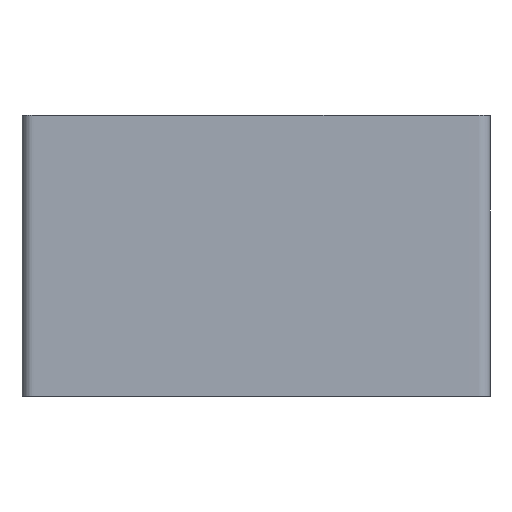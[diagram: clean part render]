
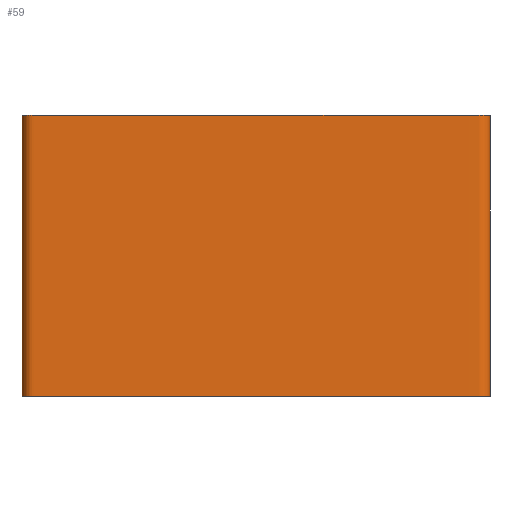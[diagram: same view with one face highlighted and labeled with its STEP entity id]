
A CAD part, top view. The second image highlights one B-rep face of the part: STEP entity #59.
In plain terms, the highlighted free-form (B-spline) face has degree [1, 2] with [2, 11] control points.
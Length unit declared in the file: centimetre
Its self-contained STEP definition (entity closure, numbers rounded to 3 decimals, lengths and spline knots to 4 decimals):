
#11=(
BOUNDED_SURFACE()
B_SPLINE_SURFACE(1,2,((#1027,#1028,#1029,#1030,#1031,#1032,#1033,#1034,#1035,
#1036,#1037),(#1038,#1039,#1040,#1041,#1042,#1043,#1044,#1045,#1046,#1047,
#1048)),.UNSPECIFIED.,.F.,.F.,.F.)
B_SPLINE_SURFACE_WITH_KNOTS((2,2),(3,2,2,2,2,3),(0.,60.),(-322.5664,
-293.0664,-289.1394,-194.1394,-190.2124,
-160.7124),.UNSPECIFIED.)
GEOMETRIC_REPRESENTATION_ITEM()
RATIONAL_B_SPLINE_SURFACE(((1.,1.,1.,0.707,1.,1.,1.,0.707,
1.,1.,1.),(1.,1.,1.,0.707,1.,1.,1.,0.707,1.,1.,1.)))
REPRESENTATION_ITEM($)
SURFACE()
);
#13=(
BOUNDED_CURVE()
B_SPLINE_CURVE(2,(#972,#973,#974,#975,#976,#977,#978,#979,#980,#981,#982),
.UNSPECIFIED.,.F.,.F.)
B_SPLINE_CURVE_WITH_KNOTS((3,2,2,2,2,3),(160.7124,190.2124,
194.1394,289.1394,293.0664,322.5664),.UNSPECIFIED.)
CURVE()
GEOMETRIC_REPRESENTATION_ITEM()
RATIONAL_B_SPLINE_CURVE((1.,1.,1.,0.707,1.,1.,1.,0.707,
1.,1.,1.))
REPRESENTATION_ITEM($)
);
#15=(
BOUNDED_CURVE()
B_SPLINE_CURVE(2,(#996,#997,#998,#999,#1000,#1001,#1002,#1003,#1004,#1005,
#1006),.UNSPECIFIED.,.F.,.F.)
B_SPLINE_CURVE_WITH_KNOTS((3,2,2,2,2,3),(160.7124,190.2124,
194.1394,289.1394,293.0664,322.5664),.UNSPECIFIED.)
CURVE()
GEOMETRIC_REPRESENTATION_ITEM()
RATIONAL_B_SPLINE_CURVE((1.,1.,1.,0.707,1.,1.,1.,0.707,
1.,1.,1.))
REPRESENTATION_ITEM($)
);
#59=ADVANCED_FACE($,(#99),#11,.T.);
#99=FACE_OUTER_BOUND($,#139,.T.);
#139=EDGE_LOOP($,(#274,#275,#276,#277));
#274=ORIENTED_EDGE($,*,*,#381,.T.);
#275=ORIENTED_EDGE($,*,*,#379,.T.);
#276=ORIENTED_EDGE($,*,*,#384,.F.);
#277=ORIENTED_EDGE($,*,*,#387,.F.);
#379=EDGE_CURVE($,#442,#443,#557,.T.);
#381=EDGE_CURVE($,#444,#442,#13,.T.);
#384=EDGE_CURVE($,#447,#443,#15,.T.);
#387=EDGE_CURVE($,#444,#447,#561,.T.);
#442=VERTEX_POINT($,#1074);
#443=VERTEX_POINT($,#1075);
#444=VERTEX_POINT($,#1076);
#447=VERTEX_POINT($,#1079);
#557=B_SPLINE_CURVE_WITH_KNOTS($,1,(#968,#969),.UNSPECIFIED.,.F.,.F.,(2,
2),(0.,60.),.UNSPECIFIED.);
#561=B_SPLINE_CURVE_WITH_KNOTS($,1,(#1020,#1021),.UNSPECIFIED.,.F.,.F.,(2,
2),(0.,60.),.UNSPECIFIED.);
#968=CARTESIAN_POINT($,(100.,0.,0.));
#969=CARTESIAN_POINT($,(100.,60.,0.));
#972=CARTESIAN_POINT($,(0.,0.,0.));
#973=CARTESIAN_POINT($,(0.,0.,14.75));
#974=CARTESIAN_POINT($,(0.,0.,29.5));
#975=CARTESIAN_POINT($,(0.,0.,32.));
#976=CARTESIAN_POINT($,(2.5,0.,32.));
#977=CARTESIAN_POINT($,(50.,0.,32.));
#978=CARTESIAN_POINT($,(97.5,0.,32.));
#979=CARTESIAN_POINT($,(100.,0.,32.));
#980=CARTESIAN_POINT($,(100.,0.,29.5));
#981=CARTESIAN_POINT($,(100.,0.,14.75));
#982=CARTESIAN_POINT($,(100.,0.,0.));
#996=CARTESIAN_POINT($,(0.,60.,0.));
#997=CARTESIAN_POINT($,(0.,60.,14.75));
#998=CARTESIAN_POINT($,(0.,60.,29.5));
#999=CARTESIAN_POINT($,(0.,60.,32.));
#1000=CARTESIAN_POINT($,(2.5,60.,32.));
#1001=CARTESIAN_POINT($,(50.,60.,32.));
#1002=CARTESIAN_POINT($,(97.5,60.,32.));
#1003=CARTESIAN_POINT($,(100.,60.,32.));
#1004=CARTESIAN_POINT($,(100.,60.,29.5));
#1005=CARTESIAN_POINT($,(100.,60.,14.75));
#1006=CARTESIAN_POINT($,(100.,60.,0.));
#1020=CARTESIAN_POINT($,(0.,0.,0.));
#1021=CARTESIAN_POINT($,(0.,60.,0.));
#1027=CARTESIAN_POINT($,(100.,0.,0.));
#1028=CARTESIAN_POINT($,(100.,0.,14.75));
#1029=CARTESIAN_POINT($,(100.,0.,29.5));
#1030=CARTESIAN_POINT($,(100.,0.,32.));
#1031=CARTESIAN_POINT($,(97.5,0.,32.));
#1032=CARTESIAN_POINT($,(50.,0.,32.));
#1033=CARTESIAN_POINT($,(2.5,0.,32.));
#1034=CARTESIAN_POINT($,(0.,0.,32.));
#1035=CARTESIAN_POINT($,(0.,0.,29.5));
#1036=CARTESIAN_POINT($,(0.,0.,14.75));
#1037=CARTESIAN_POINT($,(0.,0.,0.));
#1038=CARTESIAN_POINT($,(100.,60.,0.));
#1039=CARTESIAN_POINT($,(100.,60.,14.75));
#1040=CARTESIAN_POINT($,(100.,60.,29.5));
#1041=CARTESIAN_POINT($,(100.,60.,32.));
#1042=CARTESIAN_POINT($,(97.5,60.,32.));
#1043=CARTESIAN_POINT($,(50.,60.,32.));
#1044=CARTESIAN_POINT($,(2.5,60.,32.));
#1045=CARTESIAN_POINT($,(0.,60.,32.));
#1046=CARTESIAN_POINT($,(0.,60.,29.5));
#1047=CARTESIAN_POINT($,(0.,60.,14.75));
#1048=CARTESIAN_POINT($,(0.,60.,0.));
#1074=CARTESIAN_POINT($,(100.,0.,0.));
#1075=CARTESIAN_POINT($,(100.,60.,0.));
#1076=CARTESIAN_POINT($,(0.,0.,0.));
#1079=CARTESIAN_POINT($,(0.,60.,0.));
